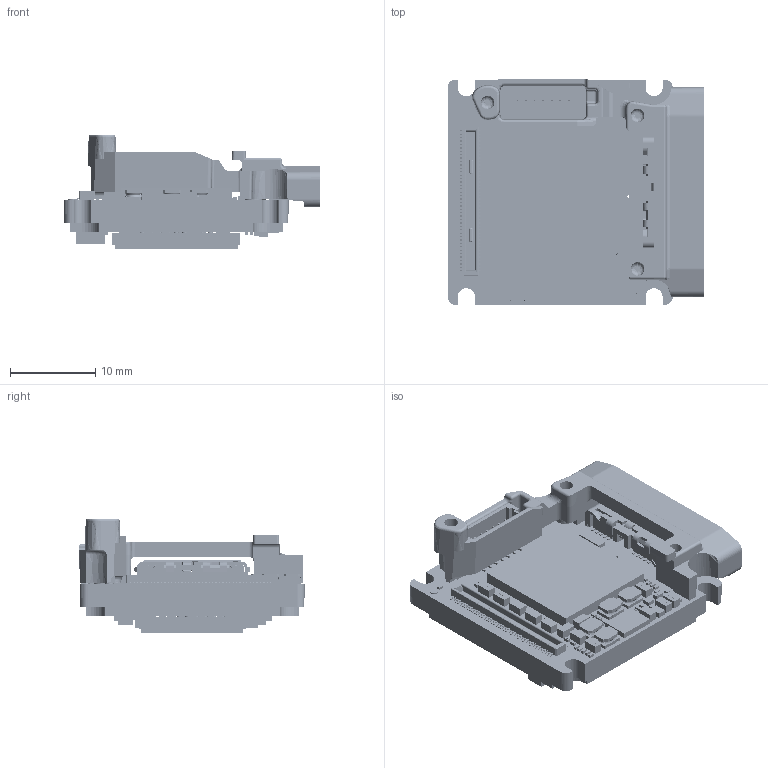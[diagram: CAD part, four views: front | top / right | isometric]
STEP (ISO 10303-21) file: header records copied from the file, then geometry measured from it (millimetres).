
FILE_DESCRIPTION (( 'STEP AP214' ), '1' );
FILE_NAME ('Alvium-USB90-Bare-Board-IMX226.STEP', '2022-12-21T10:37:48', ( '' ), ( '' ), 'SwSTEP 2.0', 'SolidWorks 2021', '' );
FILE_SCHEMA (( 'AUTOMOTIVE_DESIGN' ));
Length unit declared in the file: millimetre
Products named in the file (1): Alvium-USB90-Bare-Board-IMX226
Bounding box: 30.1 x 26.45 x 13.47 mm (x, y, z)
Volume: 3873.6 mm3; surface area: 5611.7 mm2
Topology: 152 solids, 152 shells, 10151 faces, 25984 edges, 17009 vertices
Faces by surface type: plane 4910, bspline 4116, cylinder 1047, cone 38, torus 32, sphere 8
Entity records: 651309 total; most frequent: CARTESIAN_POINT 319419, ORIENTED_EDGE 51954, DIRECTION 31661, EDGE_CURVE 25977, VERTEX_POINT 17009, LINE 15397, VECTOR 15397, EDGE_LOOP 11074
